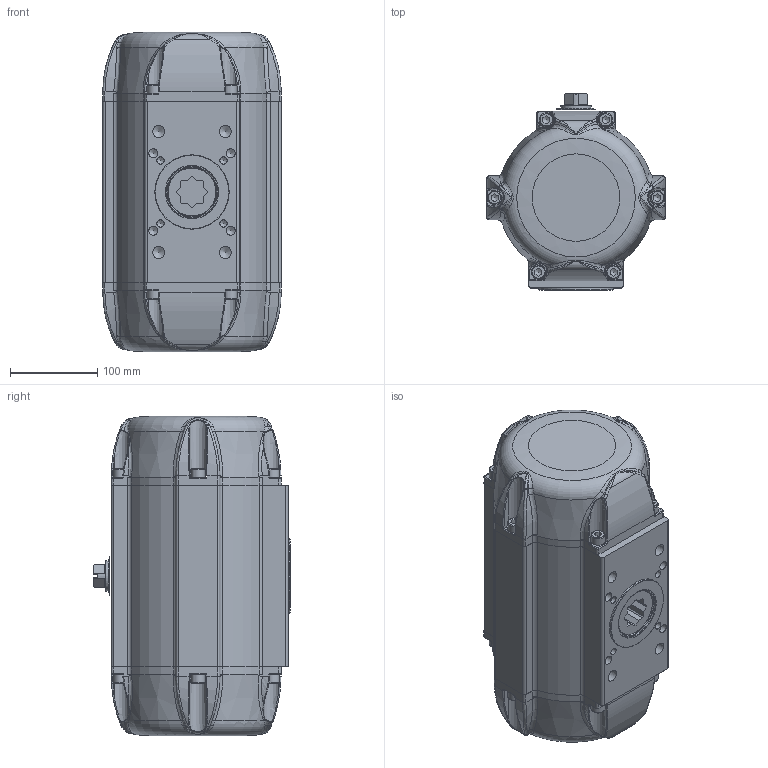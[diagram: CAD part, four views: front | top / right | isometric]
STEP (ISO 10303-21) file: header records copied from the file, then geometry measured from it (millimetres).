
FILE_DESCRIPTION((''),'2;1');
FILE_NAME('Z:\DOKUMENTATION ANTRIEBSPROGRAMM\Antriebe (neu)\BR16_SAD_SAF_90°\STEP-Dateien\SAD SAF 90° Standard\33\SAF_33_BR16.stp','2017-07-04T15:36:49',('vmi'),(''),'Autodesk Inventor 2013','Autodesk Inventor 2013','');
FILE_SCHEMA(('AUTOMOTIVE_DESIGN { 1 0 10303 214 1 1 1 1 }'));
Length unit declared in the file: millimetre
Products named in the file (1): ENG-084381_Shrinkwrap_1
Bounding box: 204 x 224.5 x 365.2 mm (x, y, z)
Surface area: 359563.4 mm2 (no closed solid volume)
Topology: 0 solids, 38 shells, 637 faces, 2220 edges, 1547 vertices
Faces by surface type: cylinder 203, plane 181, bspline 172, cone 54, torus 27
Full cylindrical faces by diameter (mm): 2.5 x2, 4.134 x8, 4.917 x1, 8.376 x4, 10.376 x4, 11.445 x2, 13.835 x4, 16 x12, 26 x1, 32.5 x1, 34.8 x1, 60 x1, 85 x1
Entity records: 30439 total; most frequent: CARTESIAN_POINT 12433, DIRECTION 3335, ORIENTED_EDGE 3289, EDGE_CURVE 2080, VERTEX_POINT 1507, AXIS2_PLACEMENT_3D 1324, EDGE_LOOP 791, CIRCLE 786
